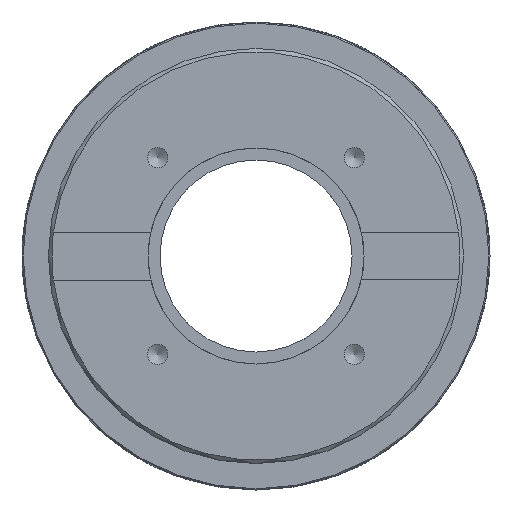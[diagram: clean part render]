
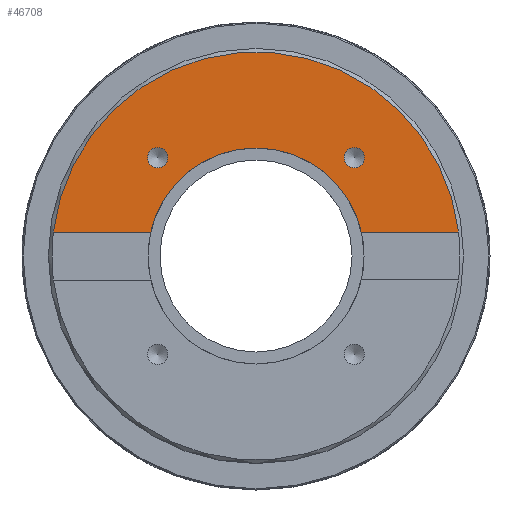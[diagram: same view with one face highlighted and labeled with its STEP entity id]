
A CAD part, left-side view. The second image highlights one B-rep face of the part: STEP entity #46708.
In plain terms, the highlighted planar face has unit normal (-1, 0, 0).
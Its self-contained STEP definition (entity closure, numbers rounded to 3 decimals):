
#479=FACE_BOUND('',#5775,.T.);
#480=FACE_BOUND('',#5776,.T.);
#1004=PLANE('',#52725);
#3277=FACE_OUTER_BOUND('',#5774,.T.);
#5774=EDGE_LOOP('',(#40117,#40118,#40119,#40120));
#5775=EDGE_LOOP('',(#40121));
#5776=EDGE_LOOP('',(#40122));
#9467=CIRCLE('',#52724,85.);
#9468=CIRCLE('',#52726,45.);
#9469=CIRCLE('',#52727,4.188);
#9470=CIRCLE('',#52728,4.188);
#12414=LINE('',#82620,#15358);
#12420=LINE('',#82632,#15364);
#15358=VECTOR('',#67568,10.);
#15364=VECTOR('',#67578,10.);
#19831=VERTEX_POINT('',#82617);
#19832=VERTEX_POINT('',#82619);
#19835=VERTEX_POINT('',#82629);
#19836=VERTEX_POINT('',#82631);
#19837=VERTEX_POINT('',#82638);
#19838=VERTEX_POINT('',#82640);
#26618=EDGE_CURVE('',#19832,#19831,#12414,.T.);
#26624=EDGE_CURVE('',#19836,#19835,#12420,.T.);
#26626=EDGE_CURVE('',#19836,#19831,#9467,.T.);
#26627=EDGE_CURVE('',#19835,#19832,#9468,.T.);
#26628=EDGE_CURVE('',#19837,#19837,#9469,.T.);
#26629=EDGE_CURVE('',#19838,#19838,#9470,.T.);
#40117=ORIENTED_EDGE('',*,*,#26624,.T.);
#40118=ORIENTED_EDGE('',*,*,#26627,.T.);
#40119=ORIENTED_EDGE('',*,*,#26618,.T.);
#40120=ORIENTED_EDGE('',*,*,#26626,.F.);
#40121=ORIENTED_EDGE('',*,*,#26628,.T.);
#40122=ORIENTED_EDGE('',*,*,#26629,.T.);
#46708=ADVANCED_FACE('',(#3277,#479,#480),#1004,.T.);
#52724=AXIS2_PLACEMENT_3D('',#82635,#67582,#67583);
#52725=AXIS2_PLACEMENT_3D('',#82636,#67584,#67585);
#52726=AXIS2_PLACEMENT_3D('',#82637,#67586,#67587);
#52727=AXIS2_PLACEMENT_3D('',#82639,#67588,#67589);
#52728=AXIS2_PLACEMENT_3D('',#82641,#67590,#67591);
#67568=DIRECTION('',(0.,-1.,0.));
#67578=DIRECTION('',(0.,-1.,0.));
#67582=DIRECTION('center_axis',(1.,0.,0.));
#67583=DIRECTION('ref_axis',(0.,0.,-1.));
#67584=DIRECTION('center_axis',(-1.,0.,0.));
#67585=DIRECTION('ref_axis',(0.,0.,1.));
#67586=DIRECTION('center_axis',(1.,0.,0.));
#67587=DIRECTION('ref_axis',(0.,0.,-1.));
#67588=DIRECTION('center_axis',(1.,0.,0.));
#67589=DIRECTION('ref_axis',(0.,0.,1.));
#67590=DIRECTION('center_axis',(1.,0.,0.));
#67591=DIRECTION('ref_axis',(0.,0.,1.));
#82617=CARTESIAN_POINT('',(-19.5,-84.41,10.));
#82619=CARTESIAN_POINT('',(-19.5,-43.875,10.));
#82620=CARTESIAN_POINT('',(-19.5,92.5,10.));
#82629=CARTESIAN_POINT('',(-19.5,43.875,10.));
#82631=CARTESIAN_POINT('',(-19.5,84.41,10.));
#82632=CARTESIAN_POINT('',(-19.5,92.5,10.));
#82635=CARTESIAN_POINT('Origin',(-19.5,0.,0.));
#82636=CARTESIAN_POINT('Origin',(-19.5,85.,0.));
#82637=CARTESIAN_POINT('Origin',(-19.5,0.,0.));
#82638=CARTESIAN_POINT('',(-19.5,41.012,36.824));
#82639=CARTESIAN_POINT('Origin',(-19.5,41.012,41.012));
#82640=CARTESIAN_POINT('',(-19.5,-41.012,36.824));
#82641=CARTESIAN_POINT('Origin',(-19.5,-41.012,41.012));
